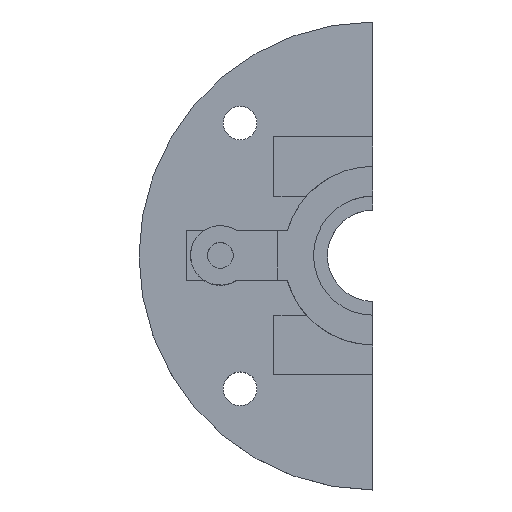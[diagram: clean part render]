
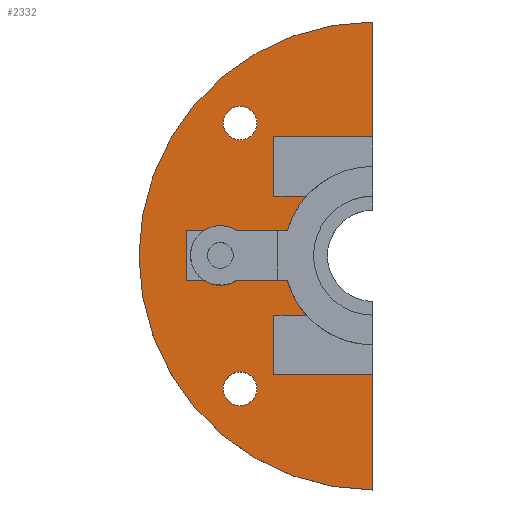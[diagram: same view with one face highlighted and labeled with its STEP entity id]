
A CAD part, top view. The second image highlights one B-rep face of the part: STEP entity #2332.
In plain terms, the highlighted planar face has unit normal (0, 0, 1).
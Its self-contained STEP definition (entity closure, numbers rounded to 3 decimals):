
#22 = VERTEX_POINT('',#23);
#23 = CARTESIAN_POINT('',(0.,4.5,2.7));
#32 = CYLINDRICAL_SURFACE('',#33,4.5);
#33 = AXIS2_PLACEMENT_3D('',#34,#35,#36);
#34 = CARTESIAN_POINT('',(0.,0.,1.2));
#35 = DIRECTION('',(0.,0.,1.));
#36 = DIRECTION('',(1.,0.,-0.));
#43 = PLANE('',#44);
#44 = AXIS2_PLACEMENT_3D('',#45,#46,#47);
#45 = CARTESIAN_POINT('',(0.,-50.,-50.));
#46 = DIRECTION('',(1.,0.,0.));
#47 = DIRECTION('',(0.,0.,1.));
#54 = EDGE_CURVE('',#22,#55,#57,.T.);
#55 = VERTEX_POINT('',#56);
#56 = CARTESIAN_POINT('',(0.,-4.5,2.7));
#57 = SURFACE_CURVE('',#58,(#63,#70),.PCURVE_S1.);
#58 = CIRCLE('',#59,4.5);
#59 = AXIS2_PLACEMENT_3D('',#60,#61,#62);
#60 = CARTESIAN_POINT('',(0.,0.,2.7));
#61 = DIRECTION('',(0.,0.,1.));
#62 = DIRECTION('',(1.,0.,-0.));
#63 = PCURVE('',#32,#64);
#64 = DEFINITIONAL_REPRESENTATION('',(#65),#69);
#65 = LINE('',#66,#67);
#66 = CARTESIAN_POINT('',(0.,1.5));
#67 = VECTOR('',#68,1.);
#68 = DIRECTION('',(1.,0.));
#69 = ( GEOMETRIC_REPRESENTATION_CONTEXT(2) 
PARAMETRIC_REPRESENTATION_CONTEXT() REPRESENTATION_CONTEXT('2D SPACE',''
  ) );
#70 = PCURVE('',#71,#76);
#71 = PLANE('',#72);
#72 = AXIS2_PLACEMENT_3D('',#73,#74,#75);
#73 = CARTESIAN_POINT('',(0.,0.,2.7));
#74 = DIRECTION('',(0.,0.,1.));
#75 = DIRECTION('',(1.,0.,-0.));
#76 = DEFINITIONAL_REPRESENTATION('',(#77),#81);
#77 = CIRCLE('',#78,4.5);
#78 = AXIS2_PLACEMENT_2D('',#79,#80);
#79 = CARTESIAN_POINT('',(0.,0.));
#80 = DIRECTION('',(1.,0.));
#81 = ( GEOMETRIC_REPRESENTATION_CONTEXT(2) 
PARAMETRIC_REPRESENTATION_CONTEXT() REPRESENTATION_CONTEXT('2D SPACE',''
  ) );
#98 = PLANE('',#99);
#99 = AXIS2_PLACEMENT_3D('',#100,#101,#102);
#100 = CARTESIAN_POINT('',(0.,-50.,-50.));
#101 = DIRECTION('',(1.,0.,0.));
#102 = DIRECTION('',(0.,0.,1.));
#458 = EDGE_CURVE('',#22,#459,#461,.T.);
#459 = VERTEX_POINT('',#460);
#460 = CARTESIAN_POINT('',(0.,11.8,2.7));
#461 = SURFACE_CURVE('',#462,(#466,#472),.PCURVE_S1.);
#462 = LINE('',#463,#464);
#463 = CARTESIAN_POINT('',(0.,-25.,2.7));
#464 = VECTOR('',#465,1.);
#465 = DIRECTION('',(0.,1.,0.));
#466 = PCURVE('',#43,#467);
#467 = DEFINITIONAL_REPRESENTATION('',(#468),#471);
#468 = B_SPLINE_CURVE_WITH_KNOTS('',1,(#469,#470),.UNSPECIFIED.,.F.,.F.,
  (2,2),(13.2,36.8),.PIECEWISE_BEZIER_KNOTS.);
#469 = CARTESIAN_POINT('',(52.7,-38.2));
#470 = CARTESIAN_POINT('',(52.7,-61.8));
#471 = ( GEOMETRIC_REPRESENTATION_CONTEXT(2) 
PARAMETRIC_REPRESENTATION_CONTEXT() REPRESENTATION_CONTEXT('2D SPACE',''
  ) );
#472 = PCURVE('',#71,#473);
#473 = DEFINITIONAL_REPRESENTATION('',(#474),#477);
#474 = B_SPLINE_CURVE_WITH_KNOTS('',1,(#475,#476),.UNSPECIFIED.,.F.,.F.,
  (2,2),(13.2,36.8),.PIECEWISE_BEZIER_KNOTS.);
#475 = CARTESIAN_POINT('',(0.,-11.8));
#476 = CARTESIAN_POINT('',(0.,11.8));
#477 = ( GEOMETRIC_REPRESENTATION_CONTEXT(2) 
PARAMETRIC_REPRESENTATION_CONTEXT() REPRESENTATION_CONTEXT('2D SPACE',''
  ) );
#997 = CYLINDRICAL_SURFACE('',#998,11.8);
#998 = AXIS2_PLACEMENT_3D('',#999,#1000,#1001);
#999 = CARTESIAN_POINT('',(0.,0.,1.2));
#1000 = DIRECTION('',(0.,0.,1.));
#1001 = DIRECTION('',(1.,0.,-0.));
#1682 = EDGE_CURVE('',#1683,#55,#1685,.T.);
#1683 = VERTEX_POINT('',#1684);
#1684 = CARTESIAN_POINT('',(0.,-11.8,2.7));
#1685 = SURFACE_CURVE('',#1686,(#1690,#1696),.PCURVE_S1.);
#1686 = LINE('',#1687,#1688);
#1687 = CARTESIAN_POINT('',(0.,-25.,2.7));
#1688 = VECTOR('',#1689,1.);
#1689 = DIRECTION('',(0.,1.,0.));
#1690 = PCURVE('',#98,#1691);
#1691 = DEFINITIONAL_REPRESENTATION('',(#1692),#1695);
#1692 = B_SPLINE_CURVE_WITH_KNOTS('',1,(#1693,#1694),.UNSPECIFIED.,.F.,
  .F.,(2,2),(13.2,36.8),.PIECEWISE_BEZIER_KNOTS.);
#1693 = CARTESIAN_POINT('',(52.7,-38.2));
#1694 = CARTESIAN_POINT('',(52.7,-61.8));
#1695 = ( GEOMETRIC_REPRESENTATION_CONTEXT(2) 
PARAMETRIC_REPRESENTATION_CONTEXT() REPRESENTATION_CONTEXT('2D SPACE',''
  ) );
#1696 = PCURVE('',#71,#1697);
#1697 = DEFINITIONAL_REPRESENTATION('',(#1698),#1701);
#1698 = B_SPLINE_CURVE_WITH_KNOTS('',1,(#1699,#1700),.UNSPECIFIED.,.F.,
  .F.,(2,2),(13.2,36.8),.PIECEWISE_BEZIER_KNOTS.);
#1699 = CARTESIAN_POINT('',(0.,-11.8));
#1700 = CARTESIAN_POINT('',(0.,11.8));
#1701 = ( GEOMETRIC_REPRESENTATION_CONTEXT(2) 
PARAMETRIC_REPRESENTATION_CONTEXT() REPRESENTATION_CONTEXT('2D SPACE',''
  ) );
#2332 = ADVANCED_FACE('',(#2333,#2360,#2391),#71,.T.);
#2333 = FACE_BOUND('',#2334,.T.);
#2334 = EDGE_LOOP('',(#2335,#2336,#2358,#2359));
#2335 = ORIENTED_EDGE('',*,*,#458,.T.);
#2336 = ORIENTED_EDGE('',*,*,#2337,.T.);
#2337 = EDGE_CURVE('',#459,#1683,#2338,.T.);
#2338 = SURFACE_CURVE('',#2339,(#2344,#2351),.PCURVE_S1.);
#2339 = CIRCLE('',#2340,11.8);
#2340 = AXIS2_PLACEMENT_3D('',#2341,#2342,#2343);
#2341 = CARTESIAN_POINT('',(0.,0.,2.7));
#2342 = DIRECTION('',(0.,0.,1.));
#2343 = DIRECTION('',(1.,0.,-0.));
#2344 = PCURVE('',#71,#2345);
#2345 = DEFINITIONAL_REPRESENTATION('',(#2346),#2350);
#2346 = CIRCLE('',#2347,11.8);
#2347 = AXIS2_PLACEMENT_2D('',#2348,#2349);
#2348 = CARTESIAN_POINT('',(0.,0.));
#2349 = DIRECTION('',(1.,0.));
#2350 = ( GEOMETRIC_REPRESENTATION_CONTEXT(2) 
PARAMETRIC_REPRESENTATION_CONTEXT() REPRESENTATION_CONTEXT('2D SPACE',''
  ) );
#2351 = PCURVE('',#997,#2352);
#2352 = DEFINITIONAL_REPRESENTATION('',(#2353),#2357);
#2353 = LINE('',#2354,#2355);
#2354 = CARTESIAN_POINT('',(0.,1.5));
#2355 = VECTOR('',#2356,1.);
#2356 = DIRECTION('',(1.,0.));
#2357 = ( GEOMETRIC_REPRESENTATION_CONTEXT(2) 
PARAMETRIC_REPRESENTATION_CONTEXT() REPRESENTATION_CONTEXT('2D SPACE',''
  ) );
#2358 = ORIENTED_EDGE('',*,*,#1682,.T.);
#2359 = ORIENTED_EDGE('',*,*,#54,.F.);
#2360 = FACE_BOUND('',#2361,.T.);
#2361 = EDGE_LOOP('',(#2362));
#2362 = ORIENTED_EDGE('',*,*,#2363,.F.);
#2363 = EDGE_CURVE('',#2364,#2364,#2366,.T.);
#2364 = VERTEX_POINT('',#2365);
#2365 = CARTESIAN_POINT('',(-5.85,-6.7,2.7));
#2366 = SURFACE_CURVE('',#2367,(#2372,#2379),.PCURVE_S1.);
#2367 = CIRCLE('',#2368,0.85);
#2368 = AXIS2_PLACEMENT_3D('',#2369,#2370,#2371);
#2369 = CARTESIAN_POINT('',(-6.7,-6.7,2.7));
#2370 = DIRECTION('',(0.,0.,1.));
#2371 = DIRECTION('',(1.,0.,-0.));
#2372 = PCURVE('',#71,#2373);
#2373 = DEFINITIONAL_REPRESENTATION('',(#2374),#2378);
#2374 = CIRCLE('',#2375,0.85);
#2375 = AXIS2_PLACEMENT_2D('',#2376,#2377);
#2376 = CARTESIAN_POINT('',(-6.7,-6.7));
#2377 = DIRECTION('',(1.,0.));
#2378 = ( GEOMETRIC_REPRESENTATION_CONTEXT(2) 
PARAMETRIC_REPRESENTATION_CONTEXT() REPRESENTATION_CONTEXT('2D SPACE',''
  ) );
#2379 = PCURVE('',#2380,#2385);
#2380 = CYLINDRICAL_SURFACE('',#2381,0.85);
#2381 = AXIS2_PLACEMENT_3D('',#2382,#2383,#2384);
#2382 = CARTESIAN_POINT('',(-6.7,-6.7,1.19));
#2383 = DIRECTION('',(0.,0.,1.));
#2384 = DIRECTION('',(1.,0.,-0.));
#2385 = DEFINITIONAL_REPRESENTATION('',(#2386),#2390);
#2386 = LINE('',#2387,#2388);
#2387 = CARTESIAN_POINT('',(0.,1.51));
#2388 = VECTOR('',#2389,1.);
#2389 = DIRECTION('',(1.,0.));
#2390 = ( GEOMETRIC_REPRESENTATION_CONTEXT(2) 
PARAMETRIC_REPRESENTATION_CONTEXT() REPRESENTATION_CONTEXT('2D SPACE',''
  ) );
#2391 = FACE_BOUND('',#2392,.T.);
#2392 = EDGE_LOOP('',(#2393));
#2393 = ORIENTED_EDGE('',*,*,#2394,.F.);
#2394 = EDGE_CURVE('',#2395,#2395,#2397,.T.);
#2395 = VERTEX_POINT('',#2396);
#2396 = CARTESIAN_POINT('',(-5.85,6.7,2.7));
#2397 = SURFACE_CURVE('',#2398,(#2403,#2410),.PCURVE_S1.);
#2398 = CIRCLE('',#2399,0.85);
#2399 = AXIS2_PLACEMENT_3D('',#2400,#2401,#2402);
#2400 = CARTESIAN_POINT('',(-6.7,6.7,2.7));
#2401 = DIRECTION('',(0.,0.,1.));
#2402 = DIRECTION('',(1.,0.,-0.));
#2403 = PCURVE('',#71,#2404);
#2404 = DEFINITIONAL_REPRESENTATION('',(#2405),#2409);
#2405 = CIRCLE('',#2406,0.85);
#2406 = AXIS2_PLACEMENT_2D('',#2407,#2408);
#2407 = CARTESIAN_POINT('',(-6.7,6.7));
#2408 = DIRECTION('',(1.,0.));
#2409 = ( GEOMETRIC_REPRESENTATION_CONTEXT(2) 
PARAMETRIC_REPRESENTATION_CONTEXT() REPRESENTATION_CONTEXT('2D SPACE',''
  ) );
#2410 = PCURVE('',#2411,#2416);
#2411 = CYLINDRICAL_SURFACE('',#2412,0.85);
#2412 = AXIS2_PLACEMENT_3D('',#2413,#2414,#2415);
#2413 = CARTESIAN_POINT('',(-6.7,6.7,1.19));
#2414 = DIRECTION('',(0.,0.,1.));
#2415 = DIRECTION('',(1.,0.,-0.));
#2416 = DEFINITIONAL_REPRESENTATION('',(#2417),#2421);
#2417 = LINE('',#2418,#2419);
#2418 = CARTESIAN_POINT('',(0.,1.51));
#2419 = VECTOR('',#2420,1.);
#2420 = DIRECTION('',(1.,0.));
#2421 = ( GEOMETRIC_REPRESENTATION_CONTEXT(2) 
PARAMETRIC_REPRESENTATION_CONTEXT() REPRESENTATION_CONTEXT('2D SPACE',''
  ) );
